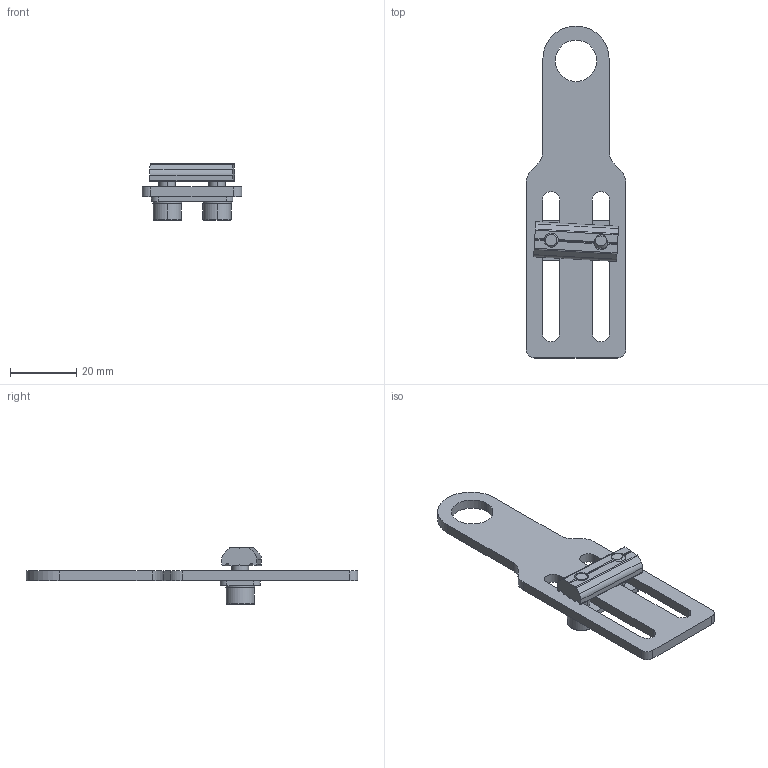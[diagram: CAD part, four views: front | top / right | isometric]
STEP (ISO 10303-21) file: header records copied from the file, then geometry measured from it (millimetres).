
FILE_DESCRIPTION (( 'STEP AP214' ), '1' );
FILE_NAME ('SMBE6-1240.STEP', '2019-11-06T01:55:13', ( '微软用户' ), ( '微软中国' ), 'SwSTEP 2.0', 'SolidWorks 2016', '' );
FILE_SCHEMA (( 'AUTOMOTIVE_DESIGN' ));
Length unit declared in the file: millimetre
Products named in the file (1): SMBE6-1240
Bounding box: 30 x 100 x 17 mm (x, y, z)
Volume: 8271.9 mm3; surface area: 8077.6 mm2
Topology: 7 solids, 7 shells, 518 faces, 1500 edges, 992 vertices
Faces by surface type: plane 451, cylinder 59, cone 4, bspline 4
Entity records: 23300 total; most frequent: CARTESIAN_POINT 3473, ORIENTED_EDGE 3000, DIRECTION 2972, EDGE_CURVE 1500, AXIS2_PLACEMENT_3D 997, VERTEX_POINT 992, VECTOR 978, LINE 978
